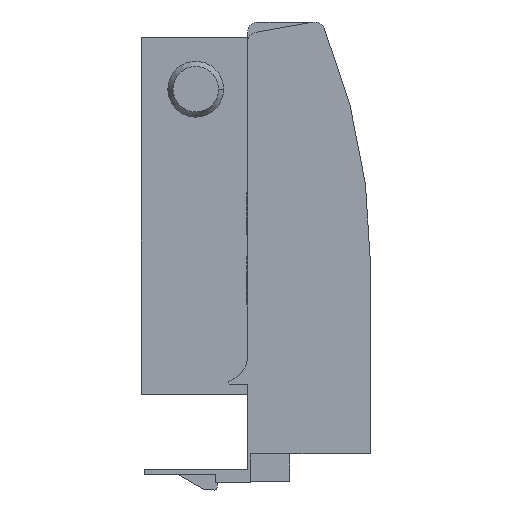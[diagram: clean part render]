
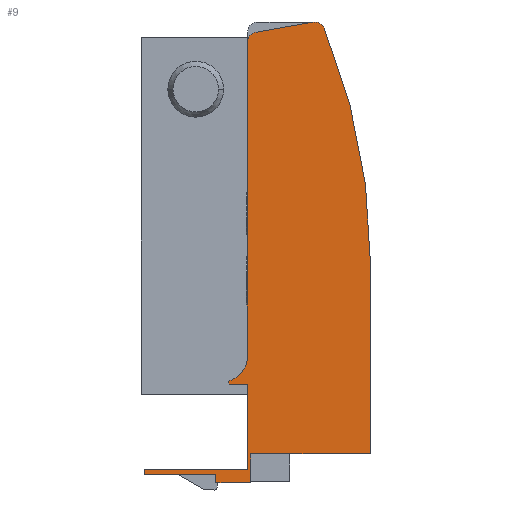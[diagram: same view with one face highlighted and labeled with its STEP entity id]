
A CAD part, front view. The second image highlights one B-rep face of the part: STEP entity #9.
In plain terms, the highlighted planar face has unit normal (0, -1, 0).
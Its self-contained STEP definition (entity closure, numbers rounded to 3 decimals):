
#9 = ADVANCED_FACE ( 'NONE', ( #646 ), #1276, .T. ) ;
#109 = EDGE_CURVE ( 'NONE', #1350, #1343, #573, .T. ) ;
#117 = EDGE_CURVE ( 'NONE', #1340, #1372, #548, .T. ) ;
#120 = EDGE_CURVE ( 'NONE', #1372, #1307, #542, .T. ) ;
#122 = EDGE_CURVE ( 'NONE', #1321, #1340, #538, .T. ) ;
#130 = EDGE_CURVE ( 'NONE', #1354, #1347, #523, .T. ) ;
#131 = EDGE_CURVE ( 'NONE', #1243, #1350, #521, .T. ) ;
#137 = EDGE_CURVE ( 'NONE', #1358, #1354, #509, .T. ) ;
#148 = EDGE_CURVE ( 'NONE', #1357, #1363, #489, .T. ) ;
#153 = EDGE_CURVE ( 'NONE', #1343, #1357, #478, .T. ) ;
#157 = EDGE_CURVE ( 'NONE', #1341, #1342, #469, .T. ) ;
#161 = EDGE_CURVE ( 'NONE', #1307, #1358, #464, .T. ) ;
#162 = EDGE_CURVE ( 'NONE', #1347, #1310, #462, .T. ) ;
#163 = EDGE_CURVE ( 'NONE', #1310, #1230, #459, .T. ) ;
#164 = EDGE_CURVE ( 'NONE', #1230, #1243, #457, .T. ) ;
#165 = EDGE_CURVE ( 'NONE', #1363, #1341, #454, .T. ) ;
#166 = EDGE_CURVE ( 'NONE', #1346, #1342, #455, .T. ) ;
#167 = EDGE_CURVE ( 'NONE', #1321, #1346, #450, .T. ) ;
#230 = AXIS2_PLACEMENT_3D ( 'NONE', #1278, #1277, #1275 ) ;
#450 = CIRCLE ( 'NONE', #1161, 2. ) ;
#453 = VECTOR ( 'NONE', #1764, 1000. ) ;
#454 = CIRCLE ( 'NONE', #1160, 120.6 ) ;
#455 = LINE ( 'NONE', #1763, #453 ) ;
#456 = VECTOR ( 'NONE', #1759, 1000. ) ;
#457 = LINE ( 'NONE', #1758, #456 ) ;
#458 = VECTOR ( 'NONE', #1757, 1000. ) ;
#459 = LINE ( 'NONE', #1756, #458 ) ;
#461 = VECTOR ( 'NONE', #1755, 1000. ) ;
#462 = LINE ( 'NONE', #1754, #461 ) ;
#463 = VECTOR ( 'NONE', #1753, 1000. ) ;
#464 = LINE ( 'NONE', #1752, #463 ) ;
#469 = CIRCLE ( 'NONE', #1158, 2. ) ;
#477 = VECTOR ( 'NONE', #1735, 1000. ) ;
#478 = LINE ( 'NONE', #1734, #477 ) ;
#488 = VECTOR ( 'NONE', #1724, 1000. ) ;
#489 = LINE ( 'NONE', #1723, #488 ) ;
#508 = VECTOR ( 'NONE', #1699, 1000. ) ;
#509 = LINE ( 'NONE', #1698, #508 ) ;
#520 = VECTOR ( 'NONE', #1687, 1000. ) ;
#521 = LINE ( 'NONE', #1686, #520 ) ;
#522 = VECTOR ( 'NONE', #1685, 1000. ) ;
#523 = LINE ( 'NONE', #1684, #522 ) ;
#537 = VECTOR ( 'NONE', #1667, 1000. ) ;
#538 = LINE ( 'NONE', #1666, #537 ) ;
#541 = VECTOR ( 'NONE', #1663, 1000. ) ;
#542 = LINE ( 'NONE', #1662, #541 ) ;
#548 = CIRCLE ( 'NONE', #1151, 5. ) ;
#572 = VECTOR ( 'NONE', #1640, 1000. ) ;
#573 = LINE ( 'NONE', #1639, #572 ) ;
#646 = FACE_OUTER_BOUND ( 'NONE', #1126, .T. ) ;
#733 = ORIENTED_EDGE ( 'NONE', *, *, #117, .T. ) ;
#734 = ORIENTED_EDGE ( 'NONE', *, *, #167, .F. ) ;
#798 = ORIENTED_EDGE ( 'NONE', *, *, #162, .T. ) ;
#802 = ORIENTED_EDGE ( 'NONE', *, *, #122, .T. ) ;
#805 = ORIENTED_EDGE ( 'NONE', *, *, #164, .T. ) ;
#811 = ORIENTED_EDGE ( 'NONE', *, *, #137, .T. ) ;
#847 = ORIENTED_EDGE ( 'NONE', *, *, #131, .T. ) ;
#848 = ORIENTED_EDGE ( 'NONE', *, *, #166, .F. ) ;
#850 = ORIENTED_EDGE ( 'NONE', *, *, #109, .T. ) ;
#940 = ORIENTED_EDGE ( 'NONE', *, *, #163, .T. ) ;
#946 = ORIENTED_EDGE ( 'NONE', *, *, #120, .T. ) ;
#950 = ORIENTED_EDGE ( 'NONE', *, *, #153, .T. ) ;
#959 = ORIENTED_EDGE ( 'NONE', *, *, #161, .T. ) ;
#966 = ORIENTED_EDGE ( 'NONE', *, *, #130, .T. ) ;
#994 = ORIENTED_EDGE ( 'NONE', *, *, #148, .T. ) ;
#1090 = ORIENTED_EDGE ( 'NONE', *, *, #157, .T. ) ;
#1099 = ORIENTED_EDGE ( 'NONE', *, *, #165, .T. ) ;
#1126 = EDGE_LOOP ( 'NONE', ( #946, #959, #811, #966, #798, #940, #805, #847, #850, #950, #994, #1099, #1090, #848, #734, #802, #733 ) ) ;
#1151 = AXIS2_PLACEMENT_3D ( 'NONE', #1655, #1656, #1657 ) ;
#1158 = AXIS2_PLACEMENT_3D ( 'NONE', #1742, #1743, #1744 ) ;
#1160 = AXIS2_PLACEMENT_3D ( 'NONE', #1760, #1761, #1762 ) ;
#1161 = AXIS2_PLACEMENT_3D ( 'NONE', #1765, #1766, #1767 ) ;
#1230 = VERTEX_POINT ( 'NONE', #1910 ) ;
#1243 = VERTEX_POINT ( 'NONE', #1919 ) ;
#1275 = DIRECTION ( 'NONE',  ( 1., 0., 0. ) ) ;
#1276 = PLANE ( 'NONE',  #230 ) ;
#1277 = DIRECTION ( 'NONE',  ( 0., -1., 0. ) ) ;
#1278 = CARTESIAN_POINT ( 'NONE',  ( -4.5, 0., 34.728 ) ) ;
#1307 = VERTEX_POINT ( 'NONE', #1950 ) ;
#1310 = VERTEX_POINT ( 'NONE', #1953 ) ;
#1321 = VERTEX_POINT ( 'NONE', #1964 ) ;
#1340 = VERTEX_POINT ( 'NONE', #1983 ) ;
#1341 = VERTEX_POINT ( 'NONE', #1984 ) ;
#1342 = VERTEX_POINT ( 'NONE', #1985 ) ;
#1343 = VERTEX_POINT ( 'NONE', #1986 ) ;
#1346 = VERTEX_POINT ( 'NONE', #1989 ) ;
#1347 = VERTEX_POINT ( 'NONE', #1990 ) ;
#1350 = VERTEX_POINT ( 'NONE', #1993 ) ;
#1354 = VERTEX_POINT ( 'NONE', #1997 ) ;
#1357 = VERTEX_POINT ( 'NONE', #2000 ) ;
#1358 = VERTEX_POINT ( 'NONE', #2001 ) ;
#1363 = VERTEX_POINT ( 'NONE', #2006 ) ;
#1372 = VERTEX_POINT ( 'NONE', #2015 ) ;
#1639 = CARTESIAN_POINT ( 'NONE',  ( -20.9, 0., -19.1 ) ) ;
#1640 = DIRECTION ( 'NONE',  ( 0., 0., 1. ) ) ;
#1655 = CARTESIAN_POINT ( 'NONE',  ( -26.5, 0., 5.395 ) ) ;
#1656 = DIRECTION ( 'NONE',  ( 0., 1., 0. ) ) ;
#1657 = DIRECTION ( 'NONE',  ( 1., 0., 0. ) ) ;
#1662 = CARTESIAN_POINT ( 'NONE',  ( -25.161, 0., 0.578 ) ) ;
#1663 = DIRECTION ( 'NONE',  ( 0.268, 0., -0.963 ) ) ;
#1666 = CARTESIAN_POINT ( 'NONE',  ( -21.5, 0., 68. ) ) ;
#1667 = DIRECTION ( 'NONE',  ( 0., 0., -1. ) ) ;
#1684 = CARTESIAN_POINT ( 'NONE',  ( -21.5, 0., -16.5 ) ) ;
#1685 = DIRECTION ( 'NONE',  ( -1., 0., 0. ) ) ;
#1686 = CARTESIAN_POINT ( 'NONE',  ( -27.599, 0., -19.1 ) ) ;
#1687 = DIRECTION ( 'NONE',  ( 1., 0., 0. ) ) ;
#1698 = CARTESIAN_POINT ( 'NONE',  ( -21.5, 0., 0. ) ) ;
#1699 = DIRECTION ( 'NONE',  ( 0., 0., -1. ) ) ;
#1723 = CARTESIAN_POINT ( 'NONE',  ( 2.3, 0., -13.5 ) ) ;
#1724 = DIRECTION ( 'NONE',  ( 0., 0., 1. ) ) ;
#1734 = CARTESIAN_POINT ( 'NONE',  ( -21.5, 0., -13.5 ) ) ;
#1735 = DIRECTION ( 'NONE',  ( 1., 0., 0. ) ) ;
#1742 = CARTESIAN_POINT ( 'NONE',  ( -8.5, 0., 68. ) ) ;
#1743 = DIRECTION ( 'NONE',  ( 0., -1., 0. ) ) ;
#1744 = DIRECTION ( 'NONE',  ( 1., 0., 0. ) ) ;
#1752 = CARTESIAN_POINT ( 'NONE',  ( -25., 0., 0. ) ) ;
#1753 = DIRECTION ( 'NONE',  ( 1., 0., 0. ) ) ;
#1754 = CARTESIAN_POINT ( 'NONE',  ( -41.499, 0., -16.5 ) ) ;
#1755 = DIRECTION ( 'NONE',  ( 0., 0., -1. ) ) ;
#1756 = CARTESIAN_POINT ( 'NONE',  ( -41.499, 0., -17.528 ) ) ;
#1757 = DIRECTION ( 'NONE',  ( 1., 0., 0. ) ) ;
#1758 = CARTESIAN_POINT ( 'NONE',  ( -27.599, 0., -17.528 ) ) ;
#1759 = DIRECTION ( 'NONE',  ( 0., 0., -1. ) ) ;
#1760 = CARTESIAN_POINT ( 'NONE',  ( -118.3, 0., 23.168 ) ) ;
#1761 = DIRECTION ( 'NONE',  ( 0., -1., 0. ) ) ;
#1762 = DIRECTION ( 'NONE',  ( 1., 0., 0. ) ) ;
#1763 = CARTESIAN_POINT ( 'NONE',  ( -8.847, 0., 69.97 ) ) ;
#1764 = DIRECTION ( 'NONE',  ( 0.985, 0., 0.174 ) ) ;
#1765 = CARTESIAN_POINT ( 'NONE',  ( -19.5, 0., 66.06 ) ) ;
#1766 = DIRECTION ( 'NONE',  ( 0., 1., 0. ) ) ;
#1767 = DIRECTION ( 'NONE',  ( 1., 0., 0. ) ) ;
#1910 = CARTESIAN_POINT ( 'NONE',  ( -27.599, 0., -17.528 ) ) ;
#1919 = CARTESIAN_POINT ( 'NONE',  ( -27.599, 0., -19.1 ) ) ;
#1950 = CARTESIAN_POINT ( 'NONE',  ( -25., 0., 0. ) ) ;
#1953 = CARTESIAN_POINT ( 'NONE',  ( -41.499, 0., -17.528 ) ) ;
#1964 = CARTESIAN_POINT ( 'NONE',  ( -21.5, 0., 66.06 ) ) ;
#1983 = CARTESIAN_POINT ( 'NONE',  ( -21.5, 0., 5.395 ) ) ;
#1984 = CARTESIAN_POINT ( 'NONE',  ( -6.648, 0., 68.756 ) ) ;
#1985 = CARTESIAN_POINT ( 'NONE',  ( -8.847, 0., 69.97 ) ) ;
#1986 = CARTESIAN_POINT ( 'NONE',  ( -20.9, 0., -13.5 ) ) ;
#1989 = CARTESIAN_POINT ( 'NONE',  ( -19.847, 0., 68.03 ) ) ;
#1990 = CARTESIAN_POINT ( 'NONE',  ( -41.499, 0., -16.5 ) ) ;
#1993 = CARTESIAN_POINT ( 'NONE',  ( -20.9, 0., -19.1 ) ) ;
#1997 = CARTESIAN_POINT ( 'NONE',  ( -21.5, 0., -16.5 ) ) ;
#2000 = CARTESIAN_POINT ( 'NONE',  ( 2.3, 0., -13.5 ) ) ;
#2001 = CARTESIAN_POINT ( 'NONE',  ( -21.5, 0., 0. ) ) ;
#2006 = CARTESIAN_POINT ( 'NONE',  ( 2.3, 0., 23.168 ) ) ;
#2015 = CARTESIAN_POINT ( 'NONE',  ( -25.161, 0., 0.578 ) ) ;
